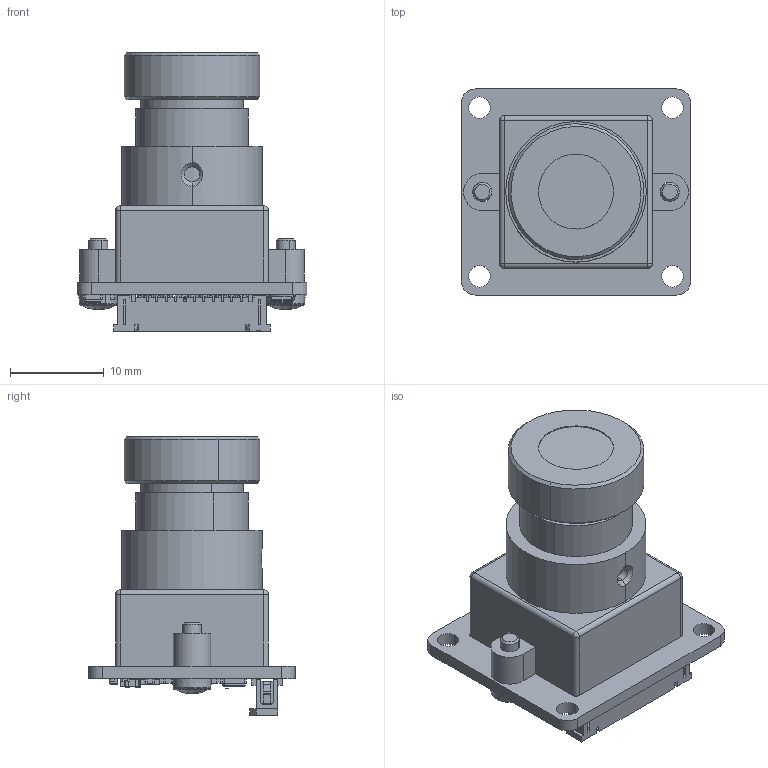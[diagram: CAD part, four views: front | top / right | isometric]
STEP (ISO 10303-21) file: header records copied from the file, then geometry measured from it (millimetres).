
FILE_DESCRIPTION((''),'2;1');
FILE_NAME('DS-CIMX335-22-60_LIGHT','2025-03-13T',('admin'),(''),'CREO PARAMETRIC BY PTC INC, 2017300','CREO PARAMETRIC BY PTC INC, 2017300','');
FILE_SCHEMA(('AUTOMOTIVE_DESIGN { 1 0 10303 214 1 1 1 1 }'));
Length unit declared in the file: millimetre
Products named in the file (1): DS-CIMX335-22-60_LIGHT
Bounding box: 24.5 x 22 x 29.74 mm (x, y, z)
Surface area: 3521.8 mm2 (no closed solid volume)
Topology: 0 solids, 251 shells, 757 faces, 2956 edges, 2437 vertices
Faces by surface type: plane 606, cylinder 97, bspline 24, cone 14, torus 12, sphere 4
Entity records: 36613 total; most frequent: CARTESIAN_POINT 7716, DIRECTION 4721, ORIENTED_EDGE 3724, EDGE_CURVE 2952, VECTOR 2471, LINE 2471, VERTEX_POINT 2437, AXIS2_PLACEMENT_3D 1125
